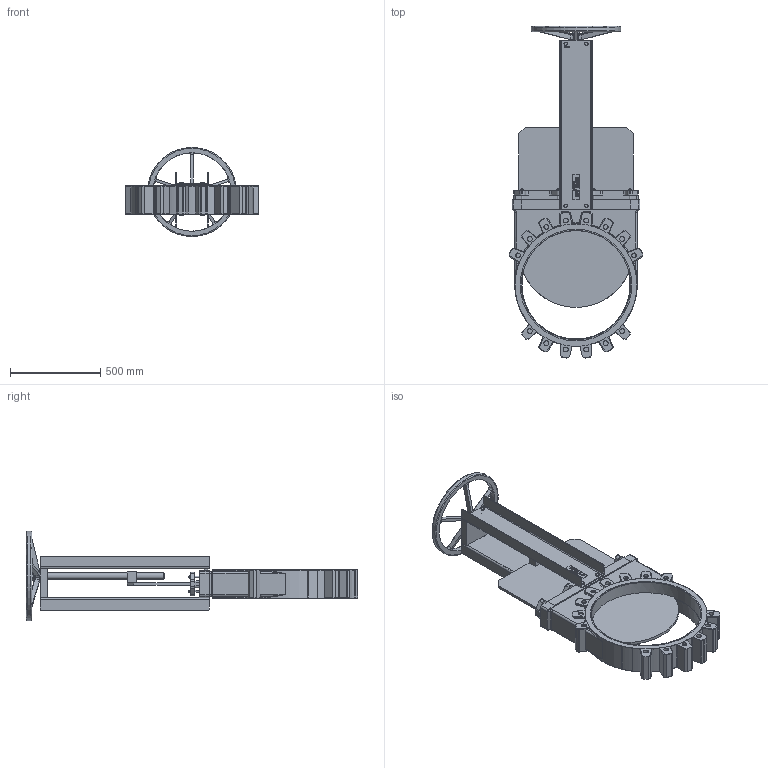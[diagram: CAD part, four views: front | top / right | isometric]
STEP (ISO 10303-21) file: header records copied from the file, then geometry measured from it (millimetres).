
FILE_DESCRIPTION((''),'2;1');
FILE_NAME('Z:\Kunder\BPS\BPS Produkter\BPS 2015\DN 600\Ritningar\BPS 2015600.stp','2012-12-28T10:58:40',('James'),(''),'Autodesk Inventor 2013','Autodesk Inventor 2013','');
FILE_SCHEMA(('AUTOMOTIVE_DESIGN { 1 2 10303 214 0 1 1 1 }'));
Length unit declared in the file: millimetre
Products named in the file (2): BPS 2015600 (SubstituteLevelofDetail2); BPS 2015600
Assembly tree (1 placements, depth 2):
  BPS 2015600 (SubstituteLevelofDetail2)
    BPS 2015600
Bounding box: 742.51 x 1842.81 x 495 mm (x, y, z)
Volume: 51301125.5 mm3; surface area: 3903617.6 mm2
Topology: 2 solids, 14 shells, 1849 faces, 4455 edges, 2756 vertices
Faces by surface type: plane 788, cylinder 535, bspline 278, sphere 100, torus 91, cone 57
Full cylindrical faces by diameter (mm): 8 x2, 10 x20, 12 x8, 13 x8, 16.63 x8, 20 x2, 27 x28, 35 x3, 435 x1, 495 x1, 600 x1, 605 x1
Entity records: 63275 total; most frequent: CARTESIAN_POINT 20314, ORIENTED_EDGE 8638, DIRECTION 7982, EDGE_CURVE 4319, AXIS2_PLACEMENT_3D 2842, VERTEX_POINT 2731, VECTOR 2298, LINE 2298
